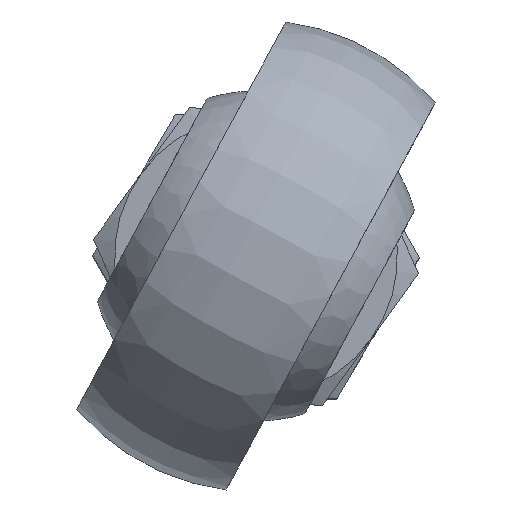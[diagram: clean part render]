
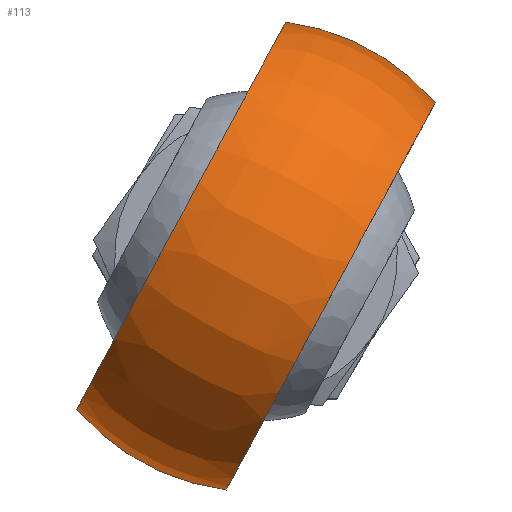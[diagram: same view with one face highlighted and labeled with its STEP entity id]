
A CAD part, top view. The second image highlights one B-rep face of the part: STEP entity #113.
In plain terms, the highlighted toroidal (fillet/blend) face has major radius 0.086 mm and minor radius 25.087 mm.
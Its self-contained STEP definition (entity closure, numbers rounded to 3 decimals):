
#113 = ADVANCED_FACE ( 'NONE', ( #769 ), #772, .T. ) ;
#178 = DIRECTION ( 'NONE',  ( 0., 0., 1. ) ) ;
#268 = CARTESIAN_POINT ( 'NONE',  ( 9., 0., 0. ) ) ;
#379 = DIRECTION ( 'NONE',  ( -1., 0., 0. ) ) ;
#380 = DIRECTION ( 'NONE',  ( -1., 0., 0. ) ) ;
#572 = DIRECTION ( 'NONE',  ( 0., 0., -1. ) ) ;
#574 = DIRECTION ( 'NONE',  ( 0., 0., 1. ) ) ;
#575 = CARTESIAN_POINT ( 'NONE',  ( -9., 0., 0. ) ) ;
#576 = CARTESIAN_POINT ( 'NONE',  ( 0., 0., -0.086 ) ) ;
#585 = DIRECTION ( 'NONE',  ( 0., -1., 0. ) ) ;
#769 = FACE_OUTER_BOUND ( 'NONE', #1257, .T. ) ;
#772 = TOROIDAL_SURFACE ( 'NONE', #2249, -0.086, 25.086 ) ;
#897 = ORIENTED_EDGE ( 'NONE', *, *, #1657, .F. ) ;
#967 = VERTEX_POINT ( 'NONE', #2812 ) ;
#970 = VERTEX_POINT ( 'NONE', #2809 ) ;
#973 = VERTEX_POINT ( 'NONE', #2806 ) ;
#991 = VERTEX_POINT ( 'NONE', #2790 ) ;
#1039 = ORIENTED_EDGE ( 'NONE', *, *, #1655, .T. ) ;
#1047 = ORIENTED_EDGE ( 'NONE', *, *, #1656, .T. ) ;
#1153 = ORIENTED_EDGE ( 'NONE', *, *, #1652, .F. ) ;
#1257 = EDGE_LOOP ( 'NONE', ( #1153, #1039, #1047, #897 ) ) ;
#1652 = EDGE_CURVE ( 'NONE', #991, #970, #1869, .T. ) ;
#1655 = EDGE_CURVE ( 'NONE', #991, #967, #1866, .T. ) ;
#1656 = EDGE_CURVE ( 'NONE', #967, #973, #1875, .T. ) ;
#1657 = EDGE_CURVE ( 'NONE', #970, #973, #1863, .T. ) ;
#1863 = CIRCLE ( 'NONE', #2210, 23.33 ) ;
#1866 = CIRCLE ( 'NONE', #2211, 23.33 ) ;
#1869 = CIRCLE ( 'NONE', #2213, 25.086 ) ;
#1875 = CIRCLE ( 'NONE', #1910, 25.086 ) ;
#1910 = AXIS2_PLACEMENT_3D ( 'NONE', #576, #585, #572 ) ;
#2210 = AXIS2_PLACEMENT_3D ( 'NONE', #575, #380, #574 ) ;
#2211 = AXIS2_PLACEMENT_3D ( 'NONE', #268, #379, #178 ) ;
#2213 = AXIS2_PLACEMENT_3D ( 'NONE', #2842, #2668, #2745 ) ;
#2249 = AXIS2_PLACEMENT_3D ( 'NONE', #2923, #2924, #2921 ) ;
#2668 = DIRECTION ( 'NONE',  ( 0., 1., 0. ) ) ;
#2745 = DIRECTION ( 'NONE',  ( 0., 0., 1. ) ) ;
#2790 = CARTESIAN_POINT ( 'NONE',  ( 9., 0., -23.33 ) ) ;
#2806 = CARTESIAN_POINT ( 'NONE',  ( -9., 0., 23.33 ) ) ;
#2809 = CARTESIAN_POINT ( 'NONE',  ( -9., 0., -23.33 ) ) ;
#2812 = CARTESIAN_POINT ( 'NONE',  ( 9., 0., 23.33 ) ) ;
#2842 = CARTESIAN_POINT ( 'NONE',  ( 0., 0., 0.086 ) ) ;
#2921 = DIRECTION ( 'NONE',  ( 0., 0., 1. ) ) ;
#2923 = CARTESIAN_POINT ( 'NONE',  ( 0., 0., 0. ) ) ;
#2924 = DIRECTION ( 'NONE',  ( -1., 0., 0. ) ) ;
